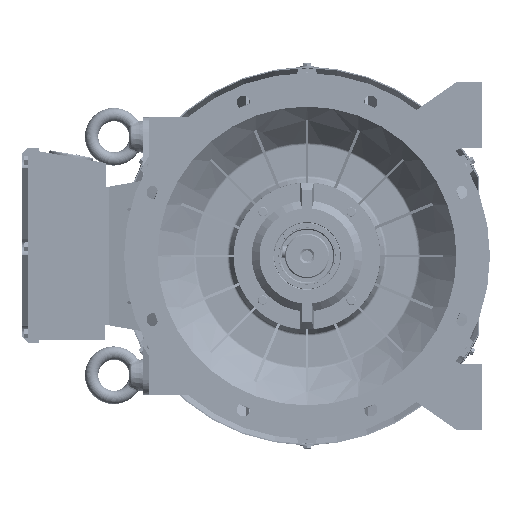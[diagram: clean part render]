
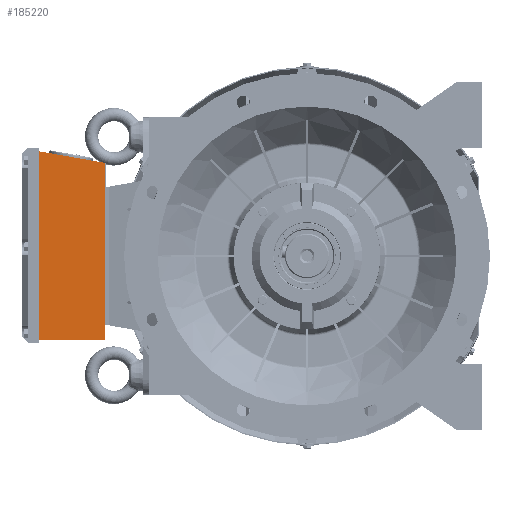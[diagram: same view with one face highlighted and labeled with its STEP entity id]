
A CAD part, left-side view. The second image highlights one B-rep face of the part: STEP entity #185220.
In plain terms, the highlighted planar face has unit normal (-1, 0, 0) as drawn and (0, 0, 1) by its records, which use the part's own axes.
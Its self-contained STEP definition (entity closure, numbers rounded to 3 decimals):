
#10357 = CARTESIAN_POINT ( 'NONE',  ( 340.012, 122., 140. ) ) ;
#10518 = ORIENTED_EDGE ( 'NONE', *, *, #59090, .T. ) ;
#12740 = PLANE ( 'NONE',  #248877 ) ;
#19242 = EDGE_LOOP ( 'NONE', ( #96101, #172795, #10518, #195631 ) ) ;
#24966 = EDGE_CURVE ( 'NONE', #27811, #39915, #238974, .T. ) ;
#27811 = VERTEX_POINT ( 'NONE', #111124 ) ;
#32808 = DIRECTION ( 'NONE',  ( 0., 0., 1. ) ) ;
#39915 = VERTEX_POINT ( 'NONE', #111965 ) ;
#58755 = VECTOR ( 'NONE', #123919, 1000. ) ;
#59090 = EDGE_CURVE ( 'NONE', #115675, #27811, #61060, .T. ) ;
#61060 = LINE ( 'NONE', #232616, #58755 ) ;
#65212 = LINE ( 'NONE', #242366, #192866 ) ;
#78485 = CARTESIAN_POINT ( 'NONE',  ( 26., 122., 140. ) ) ;
#80021 = LINE ( 'NONE', #254385, #237819 ) ;
#88862 = CARTESIAN_POINT ( 'NONE',  ( 0., 3., 140. ) ) ;
#96101 = ORIENTED_EDGE ( 'NONE', *, *, #206769, .T. ) ;
#110292 = DIRECTION ( 'NONE',  ( 0., -1., 0. ) ) ;
#111124 = CARTESIAN_POINT ( 'NONE',  ( 0., 122., 140. ) ) ;
#111965 = CARTESIAN_POINT ( 'NONE',  ( 0., 3., 140. ) ) ;
#115675 = VERTEX_POINT ( 'NONE', #10357 ) ;
#123919 = DIRECTION ( 'NONE',  ( -1., 0., 0. ) ) ;
#134864 = CARTESIAN_POINT ( 'NONE',  ( 319.029, 3., 140. ) ) ;
#141361 = VERTEX_POINT ( 'NONE', #134864 ) ;
#143534 = EDGE_CURVE ( 'NONE', #141361, #115675, #65212, .T. ) ;
#172795 = ORIENTED_EDGE ( 'NONE', *, *, #143534, .T. ) ;
#179389 = DIRECTION ( 'NONE',  ( 0.174, 0.985, 0. ) ) ;
#182353 = VECTOR ( 'NONE', #110292, 1000. ) ;
#185220 = ADVANCED_FACE ( 'NONE', ( #248629 ), #12740, .T. ) ;
#192866 = VECTOR ( 'NONE', #179389, 1000. ) ;
#195631 = ORIENTED_EDGE ( 'NONE', *, *, #24966, .T. ) ;
#206769 = EDGE_CURVE ( 'NONE', #39915, #141361, #80021, .T. ) ;
#230152 = DIRECTION ( 'NONE',  ( 1., 0., 0. ) ) ;
#231421 = DIRECTION ( 'NONE',  ( 1., 0., 0. ) ) ;
#232616 = CARTESIAN_POINT ( 'NONE',  ( 0., 122., 140. ) ) ;
#237819 = VECTOR ( 'NONE', #230152, 1000. ) ;
#238974 = LINE ( 'NONE', #88862, #182353 ) ;
#242366 = CARTESIAN_POINT ( 'NONE',  ( 318.5, 0., 140. ) ) ;
#248629 = FACE_OUTER_BOUND ( 'NONE', #19242, .T. ) ;
#248877 = AXIS2_PLACEMENT_3D ( 'NONE', #78485, #32808, #231421 ) ;
#254385 = CARTESIAN_POINT ( 'NONE',  ( 0., 3., 140. ) ) ;
